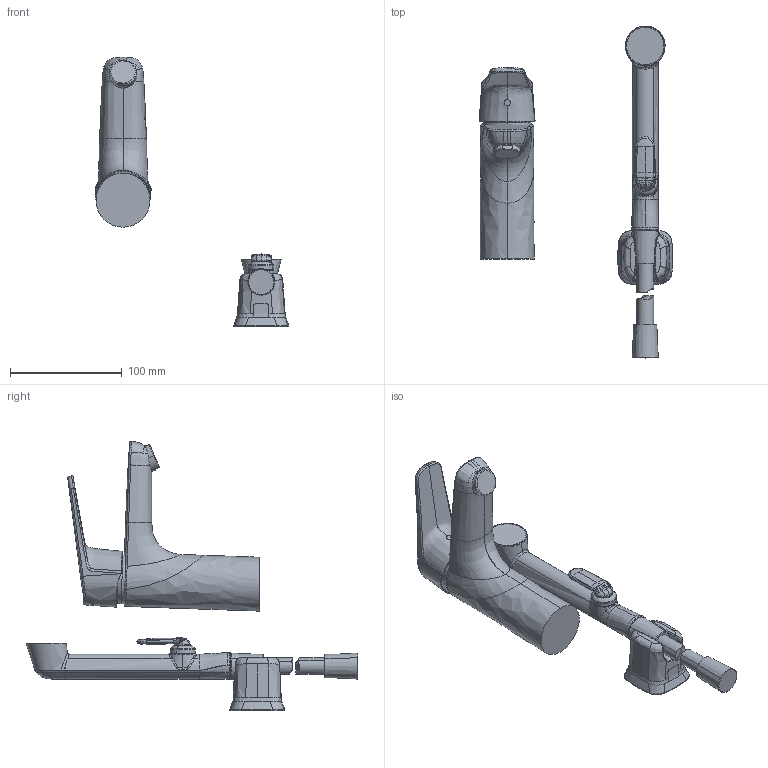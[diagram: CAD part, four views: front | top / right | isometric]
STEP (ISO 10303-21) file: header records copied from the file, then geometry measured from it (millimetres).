
FILE_DESCRIPTION (( 'STEP AP203' ), '1' );
FILE_NAME ('1801FG(2023).STEP', '2023-10-02T11:07:08', ( '' ), ( '' ), 'SwSTEP 2.0', 'SolidWorks 2016', '' );
FILE_SCHEMA (( 'CONFIG_CONTROL_DESIGN' ));
Products named in the file (1): 1801FG(2023)
Bounding box: 173.18 x 296.68 x 241.29 mm (x, y, z)
Volume: 588095.9 mm3; surface area: 89806.9 mm2
Topology: 11 solids, 11 shells, 388 faces, 978 edges, 610 vertices
Faces by surface type: bspline 300, cylinder 28, cone 25, plane 24, torus 8, sphere 3
Entity records: 100833 total; most frequent: CARTESIAN_POINT 94094, ORIENTED_EDGE 1948, EDGE_CURVE 974, VERTEX_POINT 610, B_SPLINE_CURVE_WITH_KNOTS 605, DIRECTION 579, EDGE_LOOP 390, FACE_OUTER_BOUND 388
